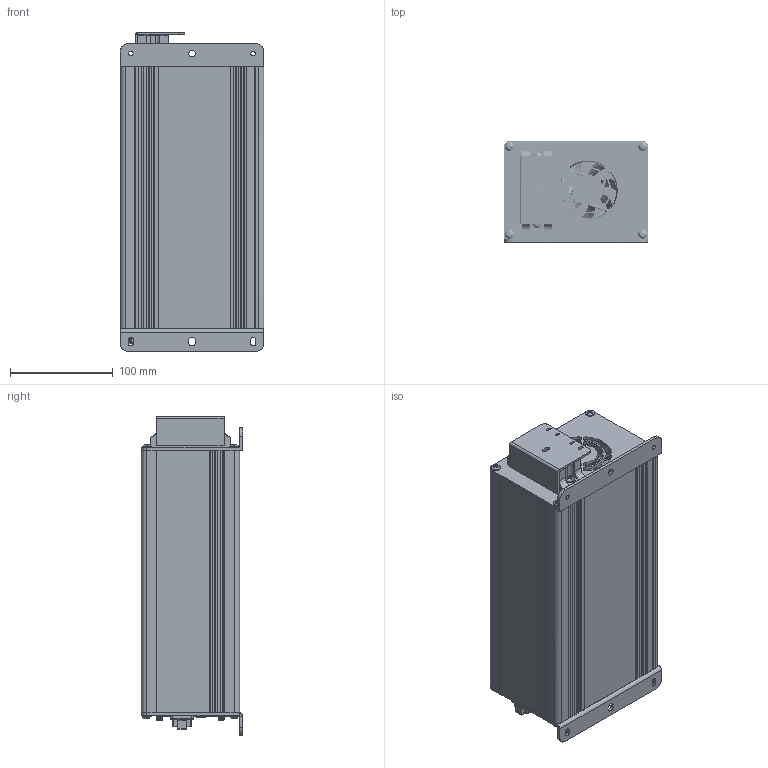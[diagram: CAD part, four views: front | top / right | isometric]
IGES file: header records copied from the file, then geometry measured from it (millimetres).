
Global section: file name: OLED DH255COM_단순화_1; native system: Autodesk Inventor 2026; preprocessor: unknown; author: Administrator; date: 20260714.134904; units: millimetre
Bounding box: 140 x 98.5 x 309.85 mm (x, y, z)
Volume: 554874.9 mm3; surface area: 396284.3 mm2
Topology: 9 solids, 9 shells, 5198 faces, 14267 edges, 9470 vertices
Faces by surface type: bspline 5198
